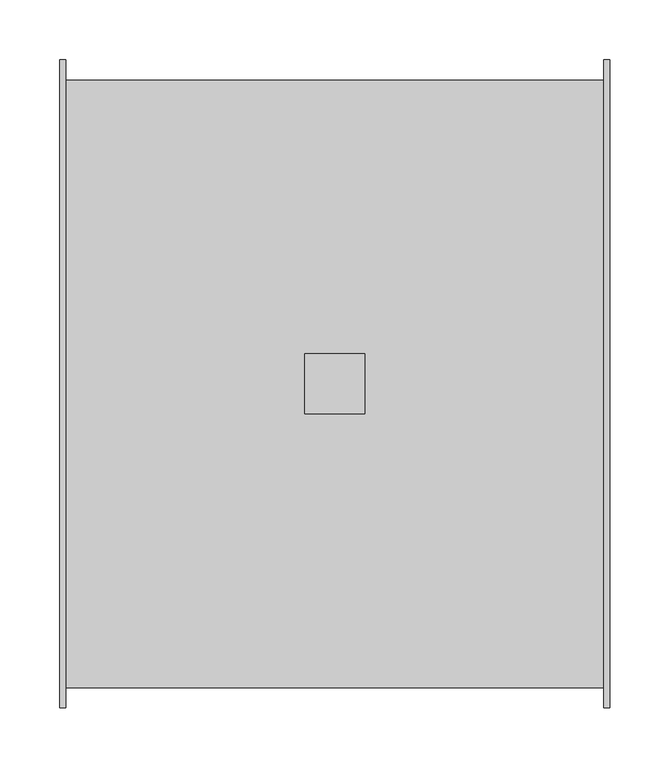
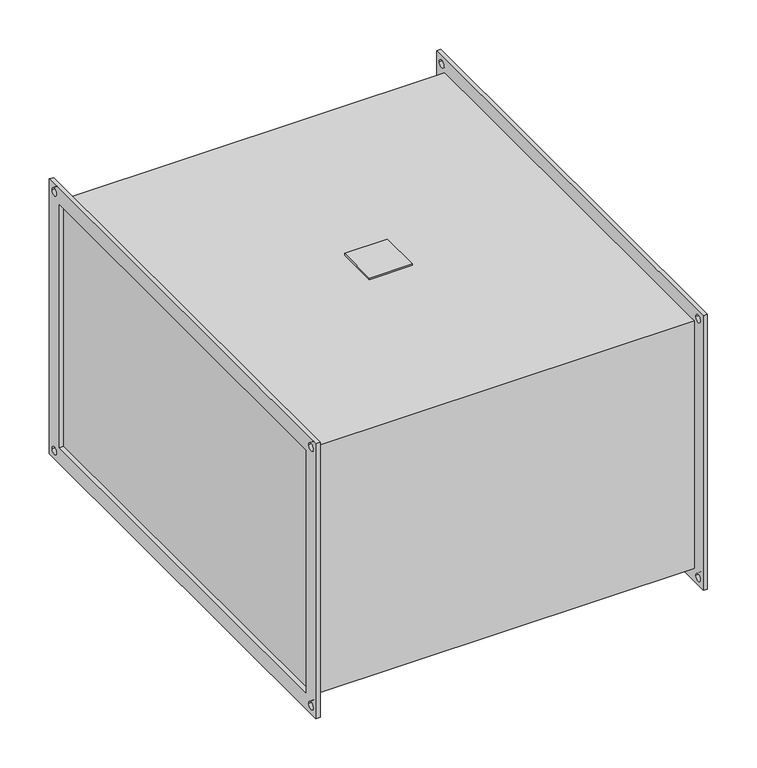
"""IFC4 building model written with IfcOpenShell, lengths in millimetres: proxy geometry, KORF_Вентилятор_WNP : WNP 50-30/22R.2D."""

from ifc_helpers import new_model, si_unit, point, frame, frame_2d, origin, place, context, project, spatial, polyline, circle_curve, trimmed, segment, composite_curve, outline, extrude, source, transform, mapped, element, save


def mechanical_equipment_96fa3fb9(model_context):
    return source(origin(), model_context, "Body", "SweptSolid", [
        extrude(outline(polyline([(204.0, -25.0), (204.0, 25.0), (254.0, 25.0), (254.0, -25.0), (204.0, -25.0)])), frame((0.0, 0.0, 153.0), z_axis=(0.0, 0.0, 1.0), x_axis=(1.0, 0.0, 0.0)), (0.0, 0.0, 1.0), 2.0),
        extrude(outline(polyline([(-270.0, 170.0), (270.0, 170.0), (270.0, -170.0), (-270.0, -170.0), (-270.0, 170.0)]), holes=[polyline([(-250.0, 150.0), (-250.0, -150.0), (250.0, -150.0), (250.0, 150.0), (-250.0, 150.0)]), composite_curve([segment(trimmed(circle_curve(frame_2d((260.0, 160.0)), 4.5), [point((255.5, 160.0))], [point((264.5, 160.0))], True, "CARTESIAN"), True, "CONTINUOUS"), segment(trimmed(circle_curve(frame_2d((260.0, 160.0)), 4.5), [point((264.5, 160.0))], [point((255.5, 160.0))], True, "CARTESIAN"), True, "CONTINUOUS")], self_intersect=False), composite_curve([segment(trimmed(circle_curve(frame_2d((-260.0, 160.0)), 4.5), [point((-264.5, 160.0))], [point((-255.5, 160.0))], True, "CARTESIAN"), True, "CONTINUOUS"), segment(trimmed(circle_curve(frame_2d((-260.0, 160.0)), 4.5), [point((-255.5, 160.0))], [point((-264.5, 160.0))], True, "CARTESIAN"), True, "CONTINUOUS")], self_intersect=False), composite_curve([segment(trimmed(circle_curve(frame_2d((-260.0, -160.0)), 4.5), [point((-264.5, -160.0))], [point((-255.5, -160.0))], True, "CARTESIAN"), True, "CONTINUOUS"), segment(trimmed(circle_curve(frame_2d((-260.0, -160.0)), 4.5), [point((-255.5, -160.0))], [point((-264.5, -160.0))], True, "CARTESIAN"), True, "CONTINUOUS")], self_intersect=False), composite_curve([segment(trimmed(circle_curve(frame_2d((260.0, -160.0)), 4.5), [point((255.5, -160.0))], [point((264.5, -160.0))], True, "CARTESIAN"), True, "CONTINUOUS"), segment(trimmed(circle_curve(frame_2d((260.0, -160.0)), 4.5), [point((264.5, -160.0))], [point((255.5, -160.0))], True, "CARTESIAN"), True, "CONTINUOUS")], self_intersect=False)]), frame((453.0, 0.0, 0.0), z_axis=(1.0, 0.0, 0.0), x_axis=(0.0, 1.0, 0.0)), (0.0, 0.0, 1.0), 5.0),
        extrude(outline(polyline([(-270.0, 170.0), (270.0, 170.0), (270.0, -170.0), (-270.0, -170.0), (-270.0, 170.0)]), holes=[polyline([(-250.0, 150.0), (-250.0, -150.0), (250.0, -150.0), (250.0, 150.0), (-250.0, 150.0)]), composite_curve([segment(trimmed(circle_curve(frame_2d((260.0, 160.0)), 4.5), [point((255.5, 160.0))], [point((264.5, 160.0))], True, "CARTESIAN"), True, "CONTINUOUS"), segment(trimmed(circle_curve(frame_2d((260.0, 160.0)), 4.5), [point((264.5, 160.0))], [point((255.5, 160.0))], True, "CARTESIAN"), True, "CONTINUOUS")], self_intersect=False), composite_curve([segment(trimmed(circle_curve(frame_2d((-260.0, 160.0)), 4.5), [point((-264.5, 160.0))], [point((-255.5, 160.0))], True, "CARTESIAN"), True, "CONTINUOUS"), segment(trimmed(circle_curve(frame_2d((-260.0, 160.0)), 4.5), [point((-255.5, 160.0))], [point((-264.5, 160.0))], True, "CARTESIAN"), True, "CONTINUOUS")], self_intersect=False), composite_curve([segment(trimmed(circle_curve(frame_2d((-260.0, -160.0)), 4.5), [point((-264.5, -160.0))], [point((-255.5, -160.0))], True, "CARTESIAN"), True, "CONTINUOUS"), segment(trimmed(circle_curve(frame_2d((-260.0, -160.0)), 4.5), [point((-255.5, -160.0))], [point((-264.5, -160.0))], True, "CARTESIAN"), True, "CONTINUOUS")], self_intersect=False), composite_curve([segment(trimmed(circle_curve(frame_2d((260.0, -160.0)), 4.5), [point((255.5, -160.0))], [point((264.5, -160.0))], True, "CARTESIAN"), True, "CONTINUOUS"), segment(trimmed(circle_curve(frame_2d((260.0, -160.0)), 4.5), [point((264.5, -160.0))], [point((255.5, -160.0))], True, "CARTESIAN"), True, "CONTINUOUS")], self_intersect=False)]), frame((0.0, 0.0, 0.0), z_axis=(1.0, 0.0, 0.0), x_axis=(0.0, 1.0, 0.0)), (0.0, 0.0, 1.0), 5.0),
        extrude(outline(polyline([(453.0, 253.0), (453.0, -253.0), (5.0, -253.0), (5.0, 253.0), (453.0, 253.0)])), frame((0.0, 0.0, -153.0), z_axis=(0.0, 0.0, 1.0), x_axis=(1.0, 0.0, 0.0)), (0.0, 0.0, 1.0), 306.0),
    ])


if __name__ == "__main__":
    model = new_model("IFC4")
    model_context = context("Model", 3, world=origin())
    ifc_project = project(units=[si_unit("LENGTHUNIT", "METRE", prefix="MILLI")], contexts=[model_context])
    site = spatial("IfcSite", under=ifc_project)
    building = spatial("IfcBuilding", under=site)
    placement = place(None, origin())
    mechanical_equipment_shape = mechanical_equipment_96fa3fb9(model_context)
    element("IfcBuildingElementProxy", 1, Name="KORF_Вентилятор_WNP : WNP 50-30/22R.2D", ObjectType="KORF_Вентилятор_WNP : WNP 50-30/22R.2D", at=placement, inside=building, context=model_context, shape_type="MappedRepresentation", body=[
        mapped(mechanical_equipment_shape, transform((0.0, 0.0, 0.0), x_axis=(1.0, 0.0, 0.0), y_axis=(0.0, 1.0, 0.0), z_axis=(0.0, 0.0, 1.0))),
    ])
    save(model, "model.ifc")
